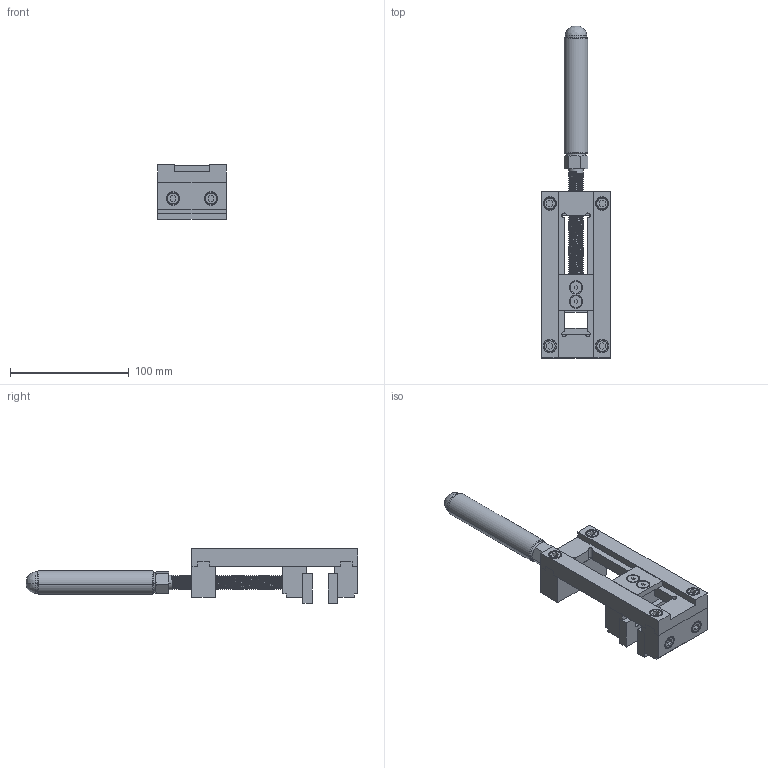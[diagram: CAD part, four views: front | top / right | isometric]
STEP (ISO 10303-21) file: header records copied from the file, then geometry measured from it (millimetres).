
FILE_DESCRIPTION((''),'2;1');
FILE_NAME('SCHRAUBSTOCK_HWK_ASM','2016-11-02T',('Administrator'),(''),'PRO/ENGINEER BY PARAMETRIC TECHNOLOGY CORPORATION, 2004320','PRO/ENGINEER BY PARAMETRIC TECHNOLOGY CORPORATION, 2004320','');
FILE_SCHEMA(('CONFIG_CONTROL_DESIGN'));
Length unit declared in the file: millimetre
Products named in the file (11): SCHRAUBSTOCK_GRUND; SCHRAUBSTOCK_GEGENLAGER; SCHRAUBSTOCK_SPINDELLAGER; SCHRAUBSTOCK_DRUCKBACKEN; SCHRAUBSTOCK_SPINDEL; SCHRAUBSTOCK_BACKEN; M6X16; SCHRAUBSTOCK_HALTEPLATTE; SENK_M5X12; D7H8_3X25; SCHRAUBSTOCK_HWK_ASM
Assembly tree (20 placements, depth 2):
  SCHRAUBSTOCK_HWK_ASM
    SCHRAUBSTOCK_GRUND
    SCHRAUBSTOCK_GEGENLAGER
    SCHRAUBSTOCK_SPINDELLAGER
    SCHRAUBSTOCK_DRUCKBACKEN
    SCHRAUBSTOCK_SPINDEL
    SCHRAUBSTOCK_BACKEN  x2
    M6X16  x8
    SCHRAUBSTOCK_HALTEPLATTE
    SENK_M5X12  x2
    D7H8_3X25  x2
Bounding box: 58 x 279.39 x 46 mm (x, y, z)
Volume: 233698.8 mm3; surface area: 80111.8 mm2
Topology: 20 solids, 20 shells, 555 faces, 1349 edges, 854 vertices
Faces by surface type: cylinder 226, plane 201, cone 60, bspline 44, torus 24
Entity records: 31904 total; most frequent: CARTESIAN_POINT 19900, ORIENTED_EDGE 1986, DIRECTION 1663, EDGE_CURVE 993, PRESENTATION_STYLE_ASSIGNMENT 882, STYLED_ITEM 882, CURVE_STYLE 873, VERTEX_POINT 638
